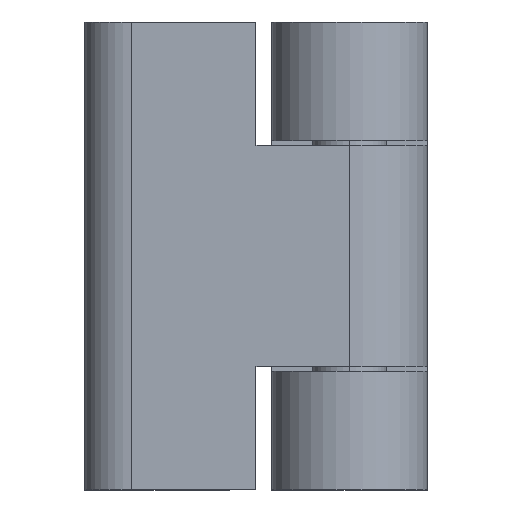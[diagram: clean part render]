
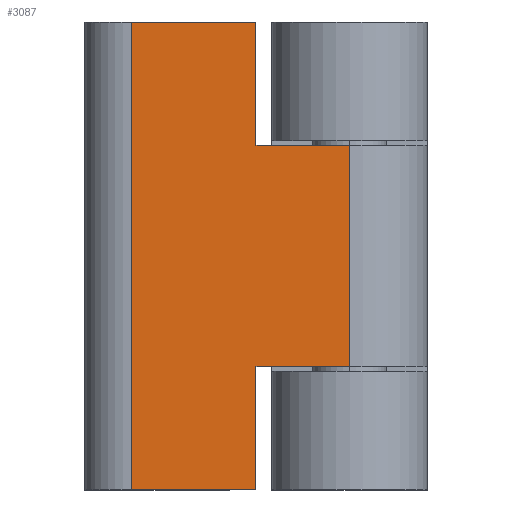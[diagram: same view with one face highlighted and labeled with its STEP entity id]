
A CAD part, top view. The second image highlights one B-rep face of the part: STEP entity #3087.
In plain terms, the highlighted planar face has unit normal (0, 0, 1).
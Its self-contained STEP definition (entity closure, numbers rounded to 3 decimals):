
#73 = VERTEX_POINT ( 'NONE', #490 ) ;
#87 = EDGE_LOOP ( 'NONE', ( #2780, #2399, #1530, #932, #2018, #2024, #1429, #2130 ) ) ;
#92 = CARTESIAN_POINT ( 'NONE',  ( -0.525, -13.356, 36.5 ) ) ;
#96 = CARTESIAN_POINT ( 'NONE',  ( -0.525, -5.456, 36.5 ) ) ;
#216 = CARTESIAN_POINT ( 'NONE',  ( -6.525, 16.644, 36.5 ) ) ;
#254 = AXIS2_PLACEMENT_3D ( 'NONE', #1683, #2154, #2661 ) ;
#315 = VERTEX_POINT ( 'NONE', #388 ) ;
#388 = CARTESIAN_POINT ( 'NONE',  ( -6.525, -5.456, 36.5 ) ) ;
#397 = VECTOR ( 'NONE', #696, 1000. ) ;
#411 = LINE ( 'NONE', #1891, #1353 ) ;
#416 = CARTESIAN_POINT ( 'NONE',  ( -14.525, 16.644, 36.5 ) ) ;
#427 = LINE ( 'NONE', #2858, #397 ) ;
#438 = VERTEX_POINT ( 'NONE', #2857 ) ;
#445 = VERTEX_POINT ( 'NONE', #96 ) ;
#490 = CARTESIAN_POINT ( 'NONE',  ( -6.525, 16.644, 36.5 ) ) ;
#633 = EDGE_CURVE ( 'NONE', #315, #2274, #2071, .T. ) ;
#696 = DIRECTION ( 'NONE',  ( 1., 0., 0. ) ) ;
#776 = DIRECTION ( 'NONE',  ( 0., 1., 0. ) ) ;
#792 = VERTEX_POINT ( 'NONE', #923 ) ;
#923 = CARTESIAN_POINT ( 'NONE',  ( -6.525, 8.744, 36.5 ) ) ;
#932 = ORIENTED_EDGE ( 'NONE', *, *, #633, .F. ) ;
#953 = CARTESIAN_POINT ( 'NONE',  ( -17.525, -13.356, 36.5 ) ) ;
#1019 = PLANE ( 'NONE',  #254 ) ;
#1094 = EDGE_CURVE ( 'NONE', #2156, #73, #1830, .T. ) ;
#1117 = VECTOR ( 'NONE', #1586, 1000. ) ;
#1163 = VECTOR ( 'NONE', #1421, 1000. ) ;
#1176 = DIRECTION ( 'NONE',  ( 0., -1., 0. ) ) ;
#1353 = VECTOR ( 'NONE', #2354, 1000. ) ;
#1378 = CARTESIAN_POINT ( 'NONE',  ( -14.525, -13.356, 36.5 ) ) ;
#1403 = VECTOR ( 'NONE', #1579, 1000. ) ;
#1421 = DIRECTION ( 'NONE',  ( 1., 0., 0. ) ) ;
#1429 = ORIENTED_EDGE ( 'NONE', *, *, #2492, .F. ) ;
#1530 = ORIENTED_EDGE ( 'NONE', *, *, #2818, .T. ) ;
#1563 = VECTOR ( 'NONE', #2918, 1000. ) ;
#1579 = DIRECTION ( 'NONE',  ( -1., 0., 0. ) ) ;
#1586 = DIRECTION ( 'NONE',  ( 0., -1., 0. ) ) ;
#1683 = CARTESIAN_POINT ( 'NONE',  ( -17.525, -13.356, 36.5 ) ) ;
#1744 = EDGE_CURVE ( 'NONE', #445, #438, #2485, .T. ) ;
#1830 = LINE ( 'NONE', #2781, #1163 ) ;
#1891 = CARTESIAN_POINT ( 'NONE',  ( -14.525, -13.356, 36.5 ) ) ;
#2018 = ORIENTED_EDGE ( 'NONE', *, *, #2356, .F. ) ;
#2024 = ORIENTED_EDGE ( 'NONE', *, *, #1744, .T. ) ;
#2046 = VECTOR ( 'NONE', #776, 1000. ) ;
#2071 = LINE ( 'NONE', #2553, #1117 ) ;
#2081 = LINE ( 'NONE', #2483, #1403 ) ;
#2121 = LINE ( 'NONE', #216, #2707 ) ;
#2130 = ORIENTED_EDGE ( 'NONE', *, *, #3048, .F. ) ;
#2154 = DIRECTION ( 'NONE',  ( 0., 0., 1. ) ) ;
#2156 = VERTEX_POINT ( 'NONE', #416 ) ;
#2274 = VERTEX_POINT ( 'NONE', #3000 ) ;
#2354 = DIRECTION ( 'NONE',  ( 0., -1., 0. ) ) ;
#2356 = EDGE_CURVE ( 'NONE', #445, #315, #2081, .T. ) ;
#2399 = ORIENTED_EDGE ( 'NONE', *, *, #2531, .T. ) ;
#2483 = CARTESIAN_POINT ( 'NONE',  ( 15.385, -5.456, 36.5 ) ) ;
#2485 = LINE ( 'NONE', #92, #2046 ) ;
#2492 = EDGE_CURVE ( 'NONE', #792, #438, #427, .T. ) ;
#2531 = EDGE_CURVE ( 'NONE', #2156, #3007, #411, .T. ) ;
#2553 = CARTESIAN_POINT ( 'NONE',  ( -6.525, -5.456, 36.5 ) ) ;
#2661 = DIRECTION ( 'NONE',  ( 1., 0., 0. ) ) ;
#2707 = VECTOR ( 'NONE', #1176, 1000. ) ;
#2780 = ORIENTED_EDGE ( 'NONE', *, *, #1094, .F. ) ;
#2781 = CARTESIAN_POINT ( 'NONE',  ( -17.525, 16.644, 36.5 ) ) ;
#2818 = EDGE_CURVE ( 'NONE', #3007, #2274, #3100, .T. ) ;
#2857 = CARTESIAN_POINT ( 'NONE',  ( -0.525, 8.744, 36.5 ) ) ;
#2858 = CARTESIAN_POINT ( 'NONE',  ( -6.525, 8.744, 36.5 ) ) ;
#2905 = FACE_OUTER_BOUND ( 'NONE', #87, .T. ) ;
#2918 = DIRECTION ( 'NONE',  ( 1., 0., 0. ) ) ;
#3000 = CARTESIAN_POINT ( 'NONE',  ( -6.525, -13.356, 36.5 ) ) ;
#3007 = VERTEX_POINT ( 'NONE', #1378 ) ;
#3048 = EDGE_CURVE ( 'NONE', #73, #792, #2121, .T. ) ;
#3087 = ADVANCED_FACE ( 'NONE', ( #2905 ), #1019, .T. ) ;
#3100 = LINE ( 'NONE', #953, #1563 ) ;
